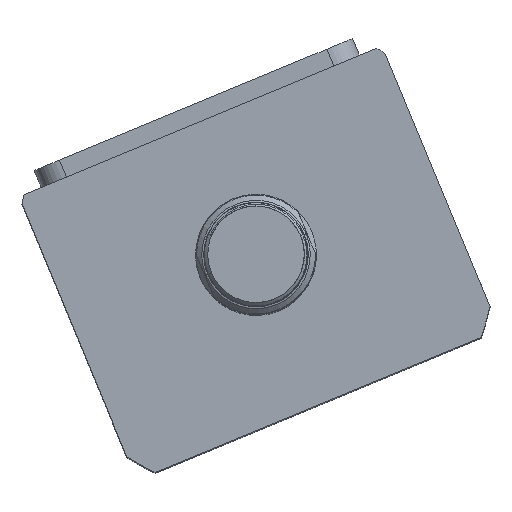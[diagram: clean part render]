
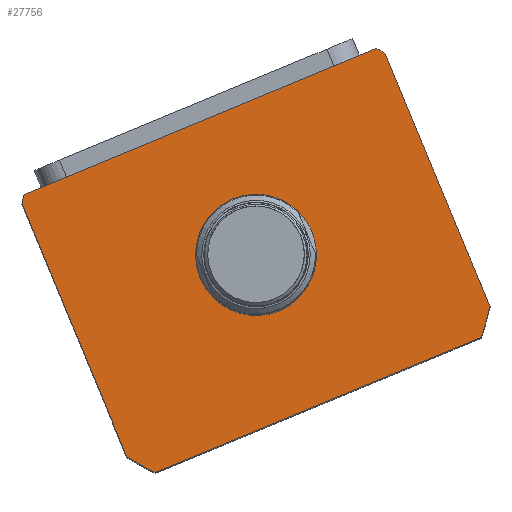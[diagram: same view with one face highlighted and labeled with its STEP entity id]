
A CAD part, top view. The second image highlights one B-rep face of the part: STEP entity #27756.
In plain terms, the highlighted planar face has unit normal (0, 0, 1) as drawn and (0, 0, -1) by its records, which use the part's own axes.
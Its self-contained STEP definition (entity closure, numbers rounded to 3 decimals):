
#23 = ORIENTED_EDGE ( 'NONE', *, *, #23284, .F. ) ;
#197 = CIRCLE ( 'NONE', #853, 17.5 ) ;
#489 = CIRCLE ( 'NONE', #15384, 69.5 ) ;
#694 = ORIENTED_EDGE ( 'NONE', *, *, #5679, .F. ) ;
#699 = CARTESIAN_POINT ( 'NONE',  ( 0., -59.497, 0. ) ) ;
#853 = AXIS2_PLACEMENT_3D ( 'NONE', #699, #15737, #2887 ) ;
#1111 = DIRECTION ( 'NONE',  ( 1., 0., 0. ) ) ;
#2887 = DIRECTION ( 'NONE',  ( 1., 0., 0. ) ) ;
#3076 = ORIENTED_EDGE ( 'NONE', *, *, #16622, .F. ) ;
#3915 = EDGE_CURVE ( 'NONE', #13652, #23667, #27511, .T. ) ;
#3918 = EDGE_CURVE ( 'NONE', #18410, #20096, #197, .T. ) ;
#4094 = AXIS2_PLACEMENT_3D ( 'NONE', #22014, #9004, #24191 ) ;
#4225 = CARTESIAN_POINT ( 'NONE',  ( 0., -59.497, 0. ) ) ;
#4304 = VERTEX_POINT ( 'NONE', #11760 ) ;
#4404 = ORIENTED_EDGE ( 'NONE', *, *, #15573, .F. ) ;
#5309 = CARTESIAN_POINT ( 'NONE',  ( -57., -17.497, 0. ) ) ;
#5515 = DIRECTION ( 'NONE',  ( 0., 0., 1. ) ) ;
#5652 = CARTESIAN_POINT ( 'NONE',  ( 51.198, -106.497, 0. ) ) ;
#5679 = EDGE_CURVE ( 'NONE', #23667, #5893, #489, .T. ) ;
#5893 = VERTEX_POINT ( 'NONE', #9069 ) ;
#6054 = CARTESIAN_POINT ( 'NONE',  ( 0., -59.497, 0. ) ) ;
#6204 = EDGE_CURVE ( 'NONE', #5893, #17305, #22022, .T. ) ;
#6341 = DIRECTION ( 'NONE',  ( 1., 0., 0. ) ) ;
#6517 = LINE ( 'NONE', #24666, #17351 ) ;
#6615 = CARTESIAN_POINT ( 'NONE',  ( -55.374, -17.497, 0. ) ) ;
#6734 = CARTESIAN_POINT ( 'NONE',  ( 55.374, -17.497, 0. ) ) ;
#7297 = DIRECTION ( 'NONE',  ( 0., 1., 0. ) ) ;
#7455 = CARTESIAN_POINT ( 'NONE',  ( 0., 0., 0. ) ) ;
#8051 = ORIENTED_EDGE ( 'NONE', *, *, #25440, .T. ) ;
#8219 = DIRECTION ( 'NONE',  ( 1., 0., 0. ) ) ;
#8944 = CARTESIAN_POINT ( 'NONE',  ( 17.5, -59.497, 0. ) ) ;
#9004 = DIRECTION ( 'NONE',  ( 0., 0., 1. ) ) ;
#9069 = CARTESIAN_POINT ( 'NONE',  ( -57., -19.732, 0. ) ) ;
#9226 = CARTESIAN_POINT ( 'NONE',  ( -57., -17.497, 0. ) ) ;
#9308 = FACE_OUTER_BOUND ( 'NONE', #20114, .T. ) ;
#9452 = EDGE_CURVE ( 'NONE', #17923, #27841, #6517, .T. ) ;
#9560 = AXIS2_PLACEMENT_3D ( 'NONE', #10377, #25548, #12515 ) ;
#10377 = CARTESIAN_POINT ( 'NONE',  ( 0., -59.497, 0. ) ) ;
#10874 = AXIS2_PLACEMENT_3D ( 'NONE', #18449, #5515, #20653 ) ;
#11760 = CARTESIAN_POINT ( 'NONE',  ( -51.198, -106.497, 0. ) ) ;
#11857 = CARTESIAN_POINT ( 'NONE',  ( 57., -99.262, 0. ) ) ;
#12080 = ORIENTED_EDGE ( 'NONE', *, *, #3915, .F. ) ;
#12500 = VERTEX_POINT ( 'NONE', #5652 ) ;
#12515 = DIRECTION ( 'NONE',  ( 1., 0., 0. ) ) ;
#12672 = CIRCLE ( 'NONE', #9560, 17.5 ) ;
#13652 = VERTEX_POINT ( 'NONE', #6734 ) ;
#13922 = DIRECTION ( 'NONE',  ( 0., -1., 0. ) ) ;
#13948 = DIRECTION ( 'NONE',  ( 0., 0., 1. ) ) ;
#15020 = CARTESIAN_POINT ( 'NONE',  ( -57., -99.262, 0. ) ) ;
#15384 = AXIS2_PLACEMENT_3D ( 'NONE', #4225, #19299, #6341 ) ;
#15573 = EDGE_CURVE ( 'NONE', #12500, #17923, #24924, .T. ) ;
#15737 = DIRECTION ( 'NONE',  ( 0., 0., 1. ) ) ;
#16177 = VECTOR ( 'NONE', #13922, 1000. ) ;
#16622 = EDGE_CURVE ( 'NONE', #27841, #13652, #17433, .T. ) ;
#16671 = VECTOR ( 'NONE', #22249, 1000. ) ;
#17305 = VERTEX_POINT ( 'NONE', #15020 ) ;
#17351 = VECTOR ( 'NONE', #7297, 1000. ) ;
#17433 = CIRCLE ( 'NONE', #4094, 69.5 ) ;
#17923 = VERTEX_POINT ( 'NONE', #11857 ) ;
#18253 = PLANE ( 'NONE',  #19952 ) ;
#18410 = VERTEX_POINT ( 'NONE', #19945 ) ;
#18449 = CARTESIAN_POINT ( 'NONE',  ( 0., -59.497, 0. ) ) ;
#19299 = DIRECTION ( 'NONE',  ( 0., 0., 1. ) ) ;
#19591 = ORIENTED_EDGE ( 'NONE', *, *, #3918, .T. ) ;
#19945 = CARTESIAN_POINT ( 'NONE',  ( -17.5, -59.497, 0. ) ) ;
#19952 = AXIS2_PLACEMENT_3D ( 'NONE', #7455, #13948, #1111 ) ;
#20096 = VERTEX_POINT ( 'NONE', #8944 ) ;
#20114 = EDGE_LOOP ( 'NONE', ( #3076, #26674, #4404, #27334, #23, #23006, #694, #12080 ) ) ;
#20442 = CARTESIAN_POINT ( 'NONE',  ( -57., -106.497, 0. ) ) ;
#20516 = LINE ( 'NONE', #20442, #26258 ) ;
#20562 = CARTESIAN_POINT ( 'NONE',  ( 57., -19.732, 0. ) ) ;
#20653 = DIRECTION ( 'NONE',  ( 1., 0., 0. ) ) ;
#20899 = EDGE_CURVE ( 'NONE', #4304, #12500, #20516, .T. ) ;
#21232 = DIRECTION ( 'NONE',  ( 0., 0., 1. ) ) ;
#21619 = EDGE_LOOP ( 'NONE', ( #8051, #19591 ) ) ;
#22014 = CARTESIAN_POINT ( 'NONE',  ( 0., -59.497, 0. ) ) ;
#22022 = LINE ( 'NONE', #5309, #16177 ) ;
#22084 = AXIS2_PLACEMENT_3D ( 'NONE', #6054, #21232, #8219 ) ;
#22249 = DIRECTION ( 'NONE',  ( -1., 0., 0. ) ) ;
#22642 = DIRECTION ( 'NONE',  ( 1., 0., 0. ) ) ;
#23006 = ORIENTED_EDGE ( 'NONE', *, *, #6204, .F. ) ;
#23284 = EDGE_CURVE ( 'NONE', #17305, #4304, #24540, .T. ) ;
#23667 = VERTEX_POINT ( 'NONE', #6615 ) ;
#24191 = DIRECTION ( 'NONE',  ( 1., 0., 0. ) ) ;
#24540 = CIRCLE ( 'NONE', #22084, 69.5 ) ;
#24666 = CARTESIAN_POINT ( 'NONE',  ( 57., -17.497, 0. ) ) ;
#24924 = CIRCLE ( 'NONE', #10874, 69.5 ) ;
#25440 = EDGE_CURVE ( 'NONE', #20096, #18410, #12672, .T. ) ;
#25548 = DIRECTION ( 'NONE',  ( 0., 0., 1. ) ) ;
#26258 = VECTOR ( 'NONE', #22642, 1000. ) ;
#26580 = FACE_BOUND ( 'NONE', #21619, .T. ) ;
#26674 = ORIENTED_EDGE ( 'NONE', *, *, #9452, .F. ) ;
#27334 = ORIENTED_EDGE ( 'NONE', *, *, #20899, .F. ) ;
#27511 = LINE ( 'NONE', #9226, #16671 ) ;
#27756 = ADVANCED_FACE ( 'NONE', ( #26580, #9308 ), #18253, .F. ) ;
#27841 = VERTEX_POINT ( 'NONE', #20562 ) ;
